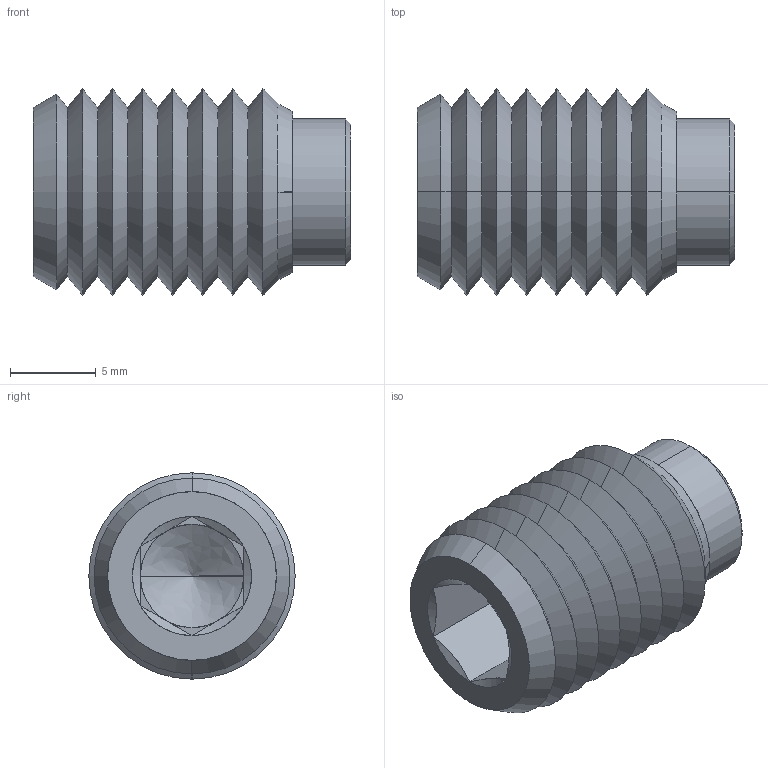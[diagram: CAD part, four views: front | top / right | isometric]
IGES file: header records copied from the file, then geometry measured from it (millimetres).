
Start section: SolidWorks IGES file using analytic representation for surfaces
Global section: file name: C:\Users\IanO\Desktop\P0120_v2_230406\P0120_v2_20230506_IGES\P0120.120-018.igs; native system: SolidWorks 2019; preprocessor: SolidWorks 2019; author: IanO; date: 230406.142545; units: millimetre
Bounding box: 18.5 x 12 x 12 mm (x, y, z)
Surface area: 1434 mm2 (no closed solid volume)
Topology: 0 solids, 0 shells, 65 faces, 518 edges, 516 vertices
Faces by surface type: revolution 48, bspline 17
